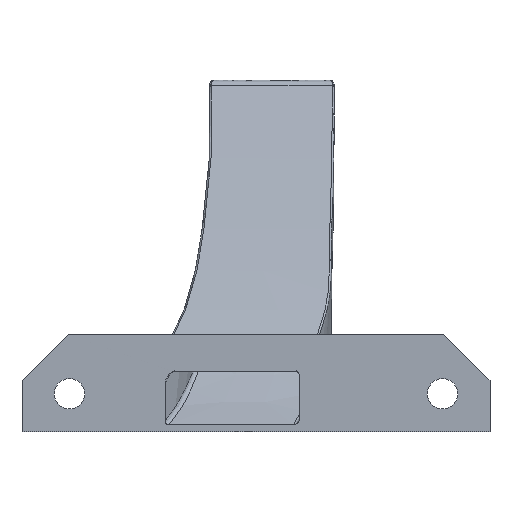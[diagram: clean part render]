
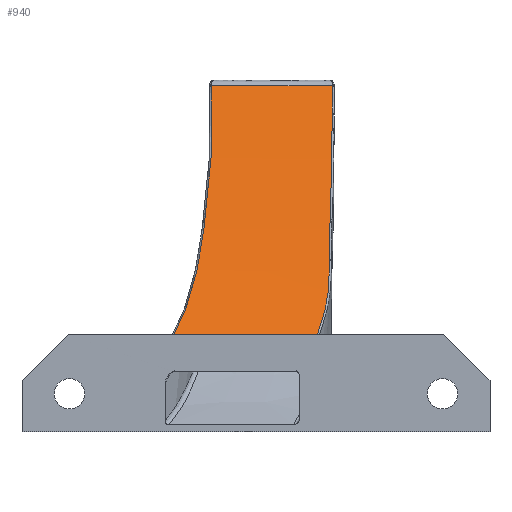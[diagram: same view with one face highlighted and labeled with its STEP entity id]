
A CAD part, left-side view. The second image highlights one B-rep face of the part: STEP entity #940.
In plain terms, the highlighted free-form (B-spline) face has degree [3, 3] with [4, 8] control points.
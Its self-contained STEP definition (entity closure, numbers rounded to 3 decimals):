
#89=FACE_OUTER_BOUND('',#138,.T.);
#138=EDGE_LOOP('',(#658,#659,#660,#661,#662,#663,#664,#665));
#200=B_SPLINE_CURVE_WITH_KNOTS('',3,(#1610,#1611,#1612,#1613),
 .UNSPECIFIED.,.F.,.F.,(4,4),(0.008,1.32),
 .UNSPECIFIED.);
#221=B_SPLINE_CURVE_WITH_KNOTS('',3,(#2034,#2035,#2036,#2037,#2038,#2039,
#2040,#2041,#2042),.UNSPECIFIED.,.F.,.F.,(4,1,1,1,2,4),(0.12,
0.543,0.965,1.388,1.81,1.818),
 .UNSPECIFIED.);
#222=B_SPLINE_CURVE_WITH_KNOTS('',3,(#2044,#2045,#2046,#2047,#2048,#2049,
#2050,#2051,#2052),.UNSPECIFIED.,.F.,.F.,(4,1,1,1,2,4),(1.818,
2.062,2.307,2.551,2.796,2.816),
 .UNSPECIFIED.);
#223=B_SPLINE_CURVE_WITH_KNOTS('',3,(#2054,#2055,#2056,#2057),
 .UNSPECIFIED.,.F.,.F.,(4,4),(2.816,3.132),
 .UNSPECIFIED.);
#225=B_SPLINE_CURVE_WITH_KNOTS('',3,(#2122,#2123,#2124,#2125,#2126,#2127,
#2128),.UNSPECIFIED.,.F.,.F.,(4,2,1,4),(0.8,0.804,
1.652,2.499),.UNSPECIFIED.);
#226=B_SPLINE_CURVE_WITH_KNOTS('',3,(#2130,#2131,#2132,#2133,#2134,#2135,
#2136,#2137),.UNSPECIFIED.,.F.,.F.,(4,2,1,1,4),(-0.218,-0.213,
0.293,0.42,0.8),.UNSPECIFIED.);
#227=B_SPLINE_CURVE_WITH_KNOTS('',3,(#2139,#2140,#2141,#2142,#2143,#2144,
#2145,#2146,#2147,#2148),.UNSPECIFIED.,.F.,.F.,(4,3,3,4),(-0.548,
-0.428,-0.308,-0.218),.UNSPECIFIED.);
#228=B_SPLINE_CURVE_WITH_KNOTS('',3,(#2149,#2150,#2151,#2152,#2153,#2154),
 .UNSPECIFIED.,.F.,.F.,(4,2,4),(-1.624,-0.812,-0.063),
 .UNSPECIFIED.);
#324=VERTEX_POINT('',#1301);
#330=VERTEX_POINT('',#1418);
#350=VERTEX_POINT('',#2033);
#351=VERTEX_POINT('',#2043);
#352=VERTEX_POINT('',#2053);
#353=VERTEX_POINT('',#2121);
#354=VERTEX_POINT('',#2129);
#355=VERTEX_POINT('',#2138);
#451=EDGE_CURVE('',#330,#324,#200,.T.);
#472=EDGE_CURVE('',#324,#350,#221,.T.);
#473=EDGE_CURVE('',#350,#351,#222,.T.);
#474=EDGE_CURVE('',#351,#352,#223,.T.);
#476=EDGE_CURVE('',#353,#330,#225,.T.);
#477=EDGE_CURVE('',#354,#353,#226,.T.);
#478=EDGE_CURVE('',#355,#354,#227,.T.);
#479=EDGE_CURVE('',#355,#352,#228,.T.);
#658=ORIENTED_EDGE('',*,*,#451,.F.);
#659=ORIENTED_EDGE('',*,*,#476,.F.);
#660=ORIENTED_EDGE('',*,*,#477,.F.);
#661=ORIENTED_EDGE('',*,*,#478,.F.);
#662=ORIENTED_EDGE('',*,*,#479,.T.);
#663=ORIENTED_EDGE('',*,*,#474,.F.);
#664=ORIENTED_EDGE('',*,*,#473,.F.);
#665=ORIENTED_EDGE('',*,*,#472,.F.);
#903=B_SPLINE_SURFACE_WITH_KNOTS('',3,3,((#2089,#2090,#2091,#2092,#2093,
#2094,#2095,#2096),(#2097,#2098,#2099,#2100,#2101,#2102,#2103,#2104),(#2105,
#2106,#2107,#2108,#2109,#2110,#2111,#2112),(#2113,#2114,#2115,#2116,#2117,
#2118,#2119,#2120)),.UNSPECIFIED.,.F.,.F.,.F.,(4,4),(4,2,2,4),(0.009,
0.987),(0.11,0.208,0.506,
0.97),.UNSPECIFIED.);
#940=ADVANCED_FACE('',(#89),#903,.T.);
#1301=CARTESIAN_POINT('',(24.175,27.018,-41.556));
#1418=CARTESIAN_POINT('',(24.175,40.138,-41.556));
#1610=CARTESIAN_POINT('Ctrl Pts',(24.175,40.138,-41.556));
#1611=CARTESIAN_POINT('Ctrl Pts',(24.175,35.765,-41.556));
#1612=CARTESIAN_POINT('Ctrl Pts',(24.175,31.392,-41.556));
#1613=CARTESIAN_POINT('Ctrl Pts',(24.175,27.018,-41.556));
#2033=CARTESIAN_POINT('',(17.285,27.287,-57.054));
#2034=CARTESIAN_POINT('Ctrl Pts',(24.175,27.018,-41.556));
#2035=CARTESIAN_POINT('Ctrl Pts',(23.638,27.015,-42.857));
#2036=CARTESIAN_POINT('Ctrl Pts',(22.548,27.019,-45.452));
#2037=CARTESIAN_POINT('Ctrl Pts',(20.863,27.063,-49.323));
#2038=CARTESIAN_POINT('Ctrl Pts',(19.125,27.147,-53.17));
#2039=CARTESIAN_POINT('Ctrl Pts',(17.928,27.233,-55.715));
#2040=CARTESIAN_POINT('Ctrl Pts',(17.308,27.285,-57.007));
#2041=CARTESIAN_POINT('Ctrl Pts',(17.297,27.286,-57.03));
#2042=CARTESIAN_POINT('Ctrl Pts',(17.285,27.287,-57.054));
#2043=CARTESIAN_POINT('',(12.793,27.82,-65.925));
#2044=CARTESIAN_POINT('Ctrl Pts',(17.285,27.287,-57.054));
#2045=CARTESIAN_POINT('Ctrl Pts',(16.932,27.315,-57.788));
#2046=CARTESIAN_POINT('Ctrl Pts',(16.226,27.33,-59.259));
#2047=CARTESIAN_POINT('Ctrl Pts',(15.152,27.328,-61.456));
#2048=CARTESIAN_POINT('Ctrl Pts',(14.05,27.414,-63.629));
#2049=CARTESIAN_POINT('Ctrl Pts',(13.283,27.616,-65.052));
#2050=CARTESIAN_POINT('Ctrl Pts',(12.859,27.792,-65.808));
#2051=CARTESIAN_POINT('Ctrl Pts',(12.826,27.806,-65.866));
#2052=CARTESIAN_POINT('Ctrl Pts',(12.793,27.82,-65.925));
#2053=CARTESIAN_POINT('',(11.246,28.633,-68.561));
#2054=CARTESIAN_POINT('Ctrl Pts',(12.793,27.82,-65.925));
#2055=CARTESIAN_POINT('Ctrl Pts',(12.286,28.036,-66.823));
#2056=CARTESIAN_POINT('Ctrl Pts',(11.768,28.306,-67.705));
#2057=CARTESIAN_POINT('Ctrl Pts',(11.246,28.633,-68.561));
#2089=CARTESIAN_POINT('Ctrl Pts',(11.246,44.241,-68.561));
#2090=CARTESIAN_POINT('Ctrl Pts',(11.768,43.779,-67.705));
#2091=CARTESIAN_POINT('Ctrl Pts',(12.284,43.366,-66.826));
#2092=CARTESIAN_POINT('Ctrl Pts',(14.344,41.889,-63.182));
#2093=CARTESIAN_POINT('Ctrl Pts',(15.795,41.485,-60.155));
#2094=CARTESIAN_POINT('Ctrl Pts',(19.611,40.281,-52.214));
#2095=CARTESIAN_POINT('Ctrl Pts',(21.905,40.014,-47.054));
#2096=CARTESIAN_POINT('Ctrl Pts',(24.175,40.214,-41.556));
#2097=CARTESIAN_POINT('Ctrl Pts',(11.246,39.016,-68.561));
#2098=CARTESIAN_POINT('Ctrl Pts',(11.768,38.605,-67.705));
#2099=CARTESIAN_POINT('Ctrl Pts',(12.284,38.243,-66.826));
#2100=CARTESIAN_POINT('Ctrl Pts',(14.344,36.977,-63.182));
#2101=CARTESIAN_POINT('Ctrl Pts',(15.795,36.789,-60.155));
#2102=CARTESIAN_POINT('Ctrl Pts',(19.611,35.877,-52.214));
#2103=CARTESIAN_POINT('Ctrl Pts',(21.905,35.669,-47.054));
#2104=CARTESIAN_POINT('Ctrl Pts',(24.175,35.808,-41.556));
#2105=CARTESIAN_POINT('Ctrl Pts',(11.246,33.791,-68.561));
#2106=CARTESIAN_POINT('Ctrl Pts',(11.768,33.431,-67.705));
#2107=CARTESIAN_POINT('Ctrl Pts',(12.284,33.121,-66.826));
#2108=CARTESIAN_POINT('Ctrl Pts',(14.344,32.065,-63.182));
#2109=CARTESIAN_POINT('Ctrl Pts',(15.795,32.094,-60.155));
#2110=CARTESIAN_POINT('Ctrl Pts',(19.611,31.473,-52.214));
#2111=CARTESIAN_POINT('Ctrl Pts',(21.905,31.324,-47.054));
#2112=CARTESIAN_POINT('Ctrl Pts',(24.175,31.403,-41.556));
#2113=CARTESIAN_POINT('Ctrl Pts',(11.246,28.566,-68.561));
#2114=CARTESIAN_POINT('Ctrl Pts',(11.768,28.257,-67.705));
#2115=CARTESIAN_POINT('Ctrl Pts',(12.284,27.998,-66.826));
#2116=CARTESIAN_POINT('Ctrl Pts',(14.344,27.153,-63.182));
#2117=CARTESIAN_POINT('Ctrl Pts',(15.795,27.398,-60.155));
#2118=CARTESIAN_POINT('Ctrl Pts',(19.611,27.069,-52.214));
#2119=CARTESIAN_POINT('Ctrl Pts',(21.905,26.979,-47.054));
#2120=CARTESIAN_POINT('Ctrl Pts',(24.175,26.997,-41.556));
#2121=CARTESIAN_POINT('',(17.285,40.953,-57.054));
#2122=CARTESIAN_POINT('Ctrl Pts',(17.286,40.953,-57.053));
#2123=CARTESIAN_POINT('Ctrl Pts',(17.291,40.951,-57.041));
#2124=CARTESIAN_POINT('Ctrl Pts',(17.297,40.95,-57.03));
#2125=CARTESIAN_POINT('Ctrl Pts',(18.517,40.559,-54.489));
#2126=CARTESIAN_POINT('Ctrl Pts',(20.874,40.061,-49.372));
#2127=CARTESIAN_POINT('Ctrl Pts',(23.098,40.044,-44.166));
#2128=CARTESIAN_POINT('Ctrl Pts',(24.175,40.138,-41.556));
#2129=CARTESIAN_POINT('',(12.793,42.978,-65.925));
#2130=CARTESIAN_POINT('Ctrl Pts',(12.793,42.978,-65.925));
#2131=CARTESIAN_POINT('Ctrl Pts',(12.8,42.973,-65.912));
#2132=CARTESIAN_POINT('Ctrl Pts',(12.808,42.968,-65.899));
#2133=CARTESIAN_POINT('Ctrl Pts',(13.597,42.394,-64.501));
#2134=CARTESIAN_POINT('Ctrl Pts',(14.543,41.911,-62.678));
#2135=CARTESIAN_POINT('Ctrl Pts',(16.016,41.349,-59.697));
#2136=CARTESIAN_POINT('Ctrl Pts',(16.741,41.127,-58.186));
#2137=CARTESIAN_POINT('Ctrl Pts',(17.286,40.953,-57.053));
#2138=CARTESIAN_POINT('',(11.246,44.241,-68.561));
#2139=CARTESIAN_POINT('Ctrl Pts',(11.246,44.241,-68.561));
#2140=CARTESIAN_POINT('Ctrl Pts',(11.435,44.07,-68.251));
#2141=CARTESIAN_POINT('Ctrl Pts',(11.624,43.906,-67.937));
#2142=CARTESIAN_POINT('Ctrl Pts',(11.812,43.748,-67.621));
#2143=CARTESIAN_POINT('Ctrl Pts',(11.999,43.59,-67.304));
#2144=CARTESIAN_POINT('Ctrl Pts',(12.187,43.439,-66.983));
#2145=CARTESIAN_POINT('Ctrl Pts',(12.373,43.294,-66.66));
#2146=CARTESIAN_POINT('Ctrl Pts',(12.514,43.185,-66.417));
#2147=CARTESIAN_POINT('Ctrl Pts',(12.654,43.08,-66.172));
#2148=CARTESIAN_POINT('Ctrl Pts',(12.793,42.978,-65.925));
#2149=CARTESIAN_POINT('Ctrl Pts',(11.246,44.241,-68.561));
#2150=CARTESIAN_POINT('Ctrl Pts',(11.246,41.535,-68.561));
#2151=CARTESIAN_POINT('Ctrl Pts',(11.246,38.829,-68.561));
#2152=CARTESIAN_POINT('Ctrl Pts',(11.246,33.626,-68.561));
#2153=CARTESIAN_POINT('Ctrl Pts',(11.246,31.13,-68.561));
#2154=CARTESIAN_POINT('Ctrl Pts',(11.246,28.633,-68.561));
